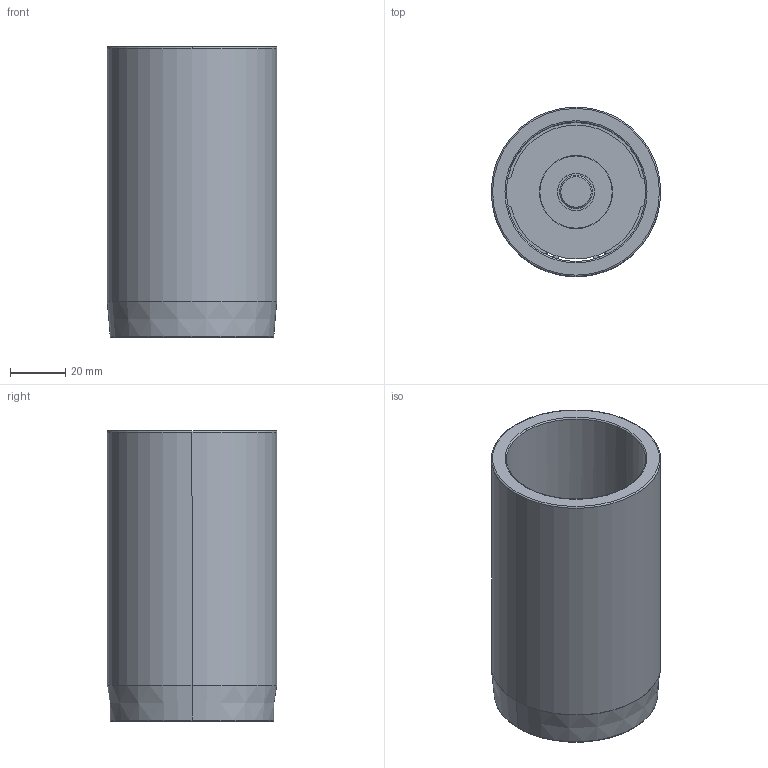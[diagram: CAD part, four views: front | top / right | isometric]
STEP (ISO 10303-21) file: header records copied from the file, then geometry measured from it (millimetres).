
FILE_DESCRIPTION((''),'2;1');
FILE_NAME('C12_050_105.stp','2009-01-28T14:16:11',(''),(''),'Mechanical Desktop 2009','Mechanical Desktop 2009',', , ');
FILE_SCHEMA(('CONFIG_CONTROL_DESIGN'));
Length unit declared in the file: millimetre
Products named in the file (2): Product; blmdl1
Assembly tree (1 placements, depth 2):
  Product
    blmdl1
Bounding box: 61.25 x 61.25 x 105 mm (x, y, z)
Volume: 107962.5 mm3; surface area: 48302.3 mm2
Topology: 5 solids, 5 shells, 79 faces, 200 edges, 134 vertices
Faces by surface type: cylinder 34, plane 29, torus 10, cone 6
Entity records: 2585 total; most frequent: DIRECTION 480, CARTESIAN_POINT 435, ORIENTED_EDGE 400, AXIS2_PLACEMENT_3D 203, EDGE_CURVE 200, VERTEX_POINT 134, CIRCLE 122, EDGE_LOOP 92
